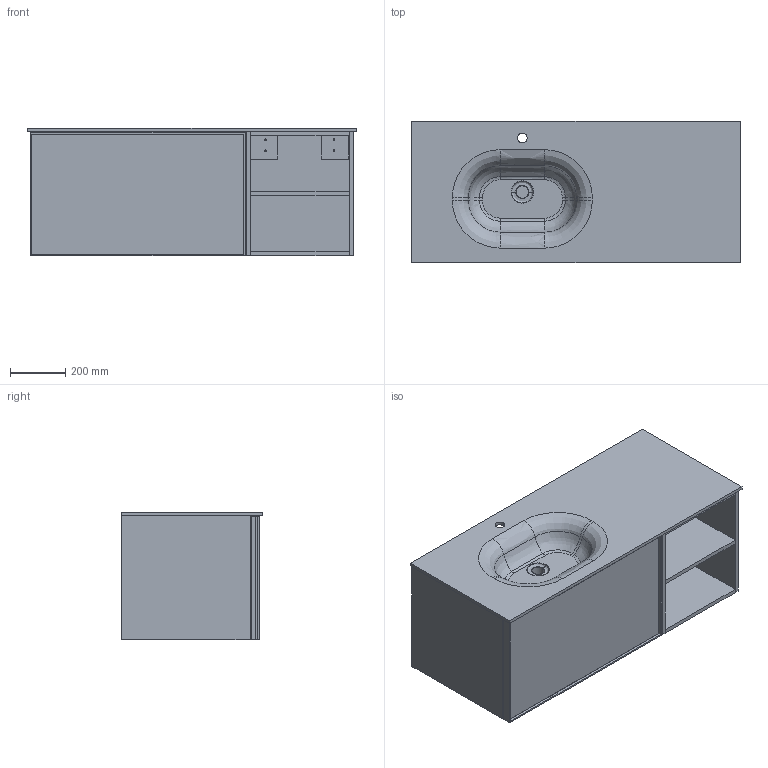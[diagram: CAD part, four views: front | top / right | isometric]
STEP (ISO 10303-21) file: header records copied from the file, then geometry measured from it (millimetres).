
FILE_DESCRIPTION (( 'STEP AP214' ), '1' );
FILE_NAME ('1200 Boffi with Side shelves.STEP', '2020-06-26T04:02:48', ( '' ), ( '' ), 'SwSTEP 2.0', 'SolidWorks 2020', '' );
FILE_SCHEMA (( 'AUTOMOTIVE_DESIGN' ));
Length unit declared in the file: millimetre
Products named in the file (1): 1200 Boffi with Side shelves
Bounding box: 1188 x 510 x 462 mm (x, y, z)
Surface area: 8066916.6 mm2 (no closed solid volume)
Topology: 0 solids, 32 shells, 419 faces, 1014 edges, 662 vertices
Faces by surface type: plane 241, cylinder 124, bspline 54
Entity records: 25209 total; most frequent: CARTESIAN_POINT 10423, ORIENTED_EDGE 2026, DIRECTION 1894, EDGE_CURVE 1014, VECTOR 674, LINE 674, VERTEX_POINT 662, AXIS2_PLACEMENT_3D 610
